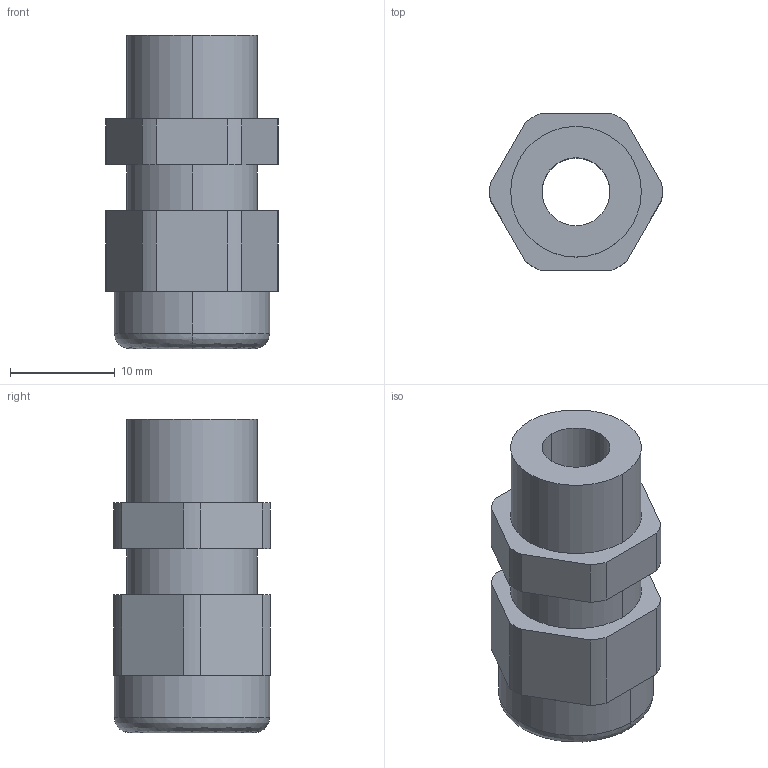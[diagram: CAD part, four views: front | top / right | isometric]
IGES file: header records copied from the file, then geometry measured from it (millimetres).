
Start section:  PTC IGES file: U:\ds\zip\sf\m12.igs
Global section: file name: U:\ds\zip\sf\m12.igs; native system: Pro/ENGINEER by Parametric Technology Corporation; preprocessor: 2003450; author: ds; organization: Unknown; date: 040803.081843; units: millimetre
Bounding box: 16.49 x 15 x 30 mm (x, y, z)
Surface area: 2397.2 mm2 (no closed solid volume)
Topology: 0 solids, 0 shells, 40 faces, 200 edges, 200 vertices
Faces by surface type: revolution 22, bspline 18
